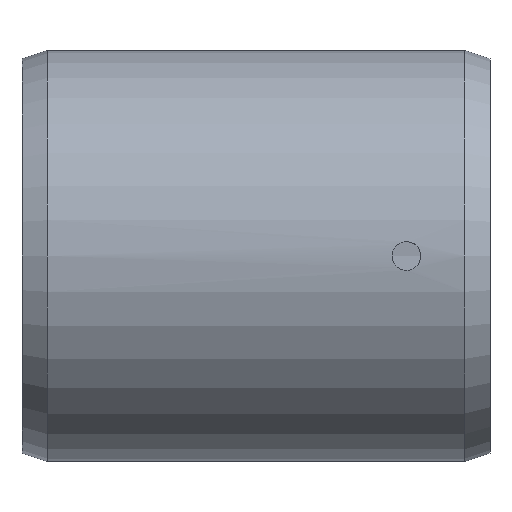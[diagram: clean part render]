
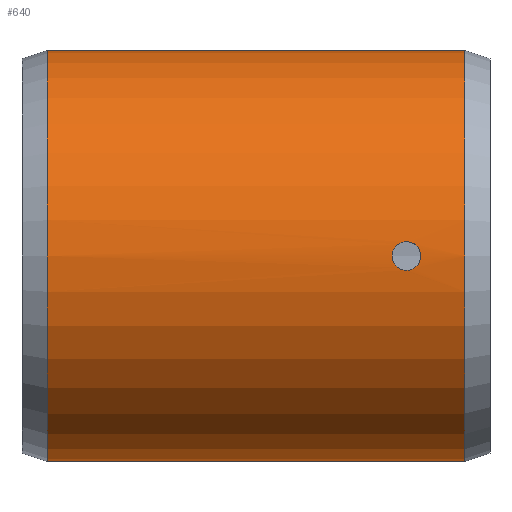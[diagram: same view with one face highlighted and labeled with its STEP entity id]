
A CAD part, front view. The second image highlights one B-rep face of the part: STEP entity #640.
In plain terms, the highlighted cylindrical face has radius 24.606 mm (diameter 49.213 mm), a partial arc.
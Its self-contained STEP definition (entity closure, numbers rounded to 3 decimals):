
#12 = CARTESIAN_POINT ( 'NONE',  ( 17.443, -24.552, -1.639 ) ) ;
#14 = AXIS2_PLACEMENT_3D ( 'NONE', #975, #816, #391 ) ;
#15 = CARTESIAN_POINT ( 'NONE',  ( 16.447, -24.595, 0.765 ) ) ;
#18 = CYLINDRICAL_SURFACE ( 'NONE', #14, 24.606 ) ;
#51 = CARTESIAN_POINT ( 'NONE',  ( 19.063, -24.568, -1.38 ) ) ;
#52 = CARTESIAN_POINT ( 'NONE',  ( 19.3, -24.58, 1.143 ) ) ;
#58 = CARTESIAN_POINT ( 'NONE',  ( 19.716, -24.605, -0.225 ) ) ;
#59 = VERTEX_POINT ( 'NONE', #190 ) ;
#86 = CARTESIAN_POINT ( 'NONE',  ( 17.135, -24.561, -1.499 ) ) ;
#95 = CARTESIAN_POINT ( 'NONE',  ( 16.626, -24.584, 1.053 ) ) ;
#106 = CARTESIAN_POINT ( 'NONE',  ( 28., 0., 24.606 ) ) ;
#116 = VERTEX_POINT ( 'NONE', #146 ) ;
#129 = CARTESIAN_POINT ( 'NONE',  ( 18.228, -24.546, -1.727 ) ) ;
#133 = CARTESIAN_POINT ( 'NONE',  ( 19.716, -24.605, 0.228 ) ) ;
#135 = CARTESIAN_POINT ( 'NONE',  ( 18.453, -24.549, 1.682 ) ) ;
#144 = CARTESIAN_POINT ( 'NONE',  ( 19.639, -24.6, -0.555 ) ) ;
#146 = CARTESIAN_POINT ( 'NONE',  ( 18., -24.546, -1.727 ) ) ;
#148 = CARTESIAN_POINT ( 'NONE',  ( 25., 0., 24.606 ) ) ;
#175 = CARTESIAN_POINT ( 'NONE',  ( 16.858, -24.572, -1.301 ) ) ;
#178 = CARTESIAN_POINT ( 'NONE',  ( 16.859, -24.572, 1.302 ) ) ;
#190 = CARTESIAN_POINT ( 'NONE',  ( 18., -24.546, 1.727 ) ) ;
#192 = CARTESIAN_POINT ( 'NONE',  ( 25., 0., 0. ) ) ;
#196 = CARTESIAN_POINT ( 'NONE',  ( 25., 0., -24.606 ) ) ;
#199 = ORIENTED_EDGE ( 'NONE', *, *, #545, .T. ) ;
#218 = CARTESIAN_POINT ( 'NONE',  ( 18.455, -24.549, -1.681 ) ) ;
#251 = CARTESIAN_POINT ( 'NONE',  ( 18.225, -24.546, 1.727 ) ) ;
#259 = CARTESIAN_POINT ( 'NONE',  ( 16.491, -24.592, -0.869 ) ) ;
#264 = CARTESIAN_POINT ( 'NONE',  ( 17.133, -24.561, 1.498 ) ) ;
#273 = DIRECTION ( 'NONE',  ( 0., 0., -1. ) ) ;
#301 = CARTESIAN_POINT ( 'NONE',  ( 18., -24.546, -1.727 ) ) ;
#321 = CARTESIAN_POINT ( 'NONE',  ( -25., 0., 0. ) ) ;
#326 = VECTOR ( 'NONE', #668, 1000. ) ;
#336 = CARTESIAN_POINT ( 'NONE',  ( 18., -24.546, -1.727 ) ) ;
#339 = ORIENTED_EDGE ( 'NONE', *, *, #982, .T. ) ;
#342 = CARTESIAN_POINT ( 'NONE',  ( 16.273, -24.606, -0.226 ) ) ;
#346 = CARTESIAN_POINT ( 'NONE',  ( 17.444, -24.552, 1.639 ) ) ;
#379 = CARTESIAN_POINT ( 'NONE',  ( 19.672, -24.602, 0.448 ) ) ;
#388 = AXIS2_PLACEMENT_3D ( 'NONE', #192, #711, #273 ) ;
#391 = DIRECTION ( 'NONE',  ( 0., 0., 1. ) ) ;
#411 = CARTESIAN_POINT ( 'NONE',  ( 17.886, -24.546, -1.727 ) ) ;
#416 = CARTESIAN_POINT ( 'NONE',  ( 16.284, -24.605, 0.227 ) ) ;
#418 = CARTESIAN_POINT ( 'NONE',  ( 17.773, -24.546, 1.716 ) ) ;
#431 = VERTEX_POINT ( 'NONE', #575 ) ;
#443 = FACE_BOUND ( 'NONE', #928, .T. ) ;
#450 = FACE_OUTER_BOUND ( 'NONE', #664, .T. ) ;
#452 = LINE ( 'NONE', #514, #326 ) ;
#456 = CARTESIAN_POINT ( 'NONE',  ( 19.5, -24.591, -0.864 ) ) ;
#458 = CARTESIAN_POINT ( 'NONE',  ( 19.552, -24.595, 0.767 ) ) ;
#463 = CARTESIAN_POINT ( 'NONE',  ( 19.553, -24.595, -0.765 ) ) ;
#488 = CARTESIAN_POINT ( 'NONE',  ( 17.553, -24.549, -1.672 ) ) ;
#491 = B_SPLINE_CURVE_WITH_KNOTS ( 'NONE', 3,
 ( #564, #251, #135, #665, #958, #52, #529, #884, #458, #876, #379, #133, #966, #536, #58, #607, #144, #463, #456, #603, #732, #51, #879, #218, #129, #301 ),
 .UNSPECIFIED., .F., .F.,
 ( 4, 2, 2, 2, 2, 2, 2, 2, 2, 2, 2, 2, 4 ),
 ( 0.005, 0.006, 0.007, 0.007, 0.007, 0.008, 0.008, 0.008, 0.009, 0.009, 0.009, 0.01, 0.011 ),
 .UNSPECIFIED. ) ;
#494 = CARTESIAN_POINT ( 'NONE',  ( 16.361, -24.6, 0.556 ) ) ;
#498 = CARTESIAN_POINT ( 'NONE',  ( 18., -24.546, 1.727 ) ) ;
#514 = CARTESIAN_POINT ( 'NONE',  ( 28., 0., -24.606 ) ) ;
#524 = VERTEX_POINT ( 'NONE', #651 ) ;
#529 = CARTESIAN_POINT ( 'NONE',  ( 19.373, -24.584, 1.054 ) ) ;
#536 = CARTESIAN_POINT ( 'NONE',  ( 19.727, -24.606, -0.113 ) ) ;
#545 = EDGE_CURVE ( 'NONE', #59, #116, #491, .T. ) ;
#548 = EDGE_CURVE ( 'NONE', #853, #431, #452, .T. ) ;
#559 = CARTESIAN_POINT ( 'NONE',  ( 17.234, -24.557, -1.552 ) ) ;
#562 = CARTESIAN_POINT ( 'NONE',  ( 16.501, -24.591, 0.866 ) ) ;
#564 = CARTESIAN_POINT ( 'NONE',  ( 18., -24.546, 1.727 ) ) ;
#575 = CARTESIAN_POINT ( 'NONE',  ( -25., 0., -24.606 ) ) ;
#603 = CARTESIAN_POINT ( 'NONE',  ( 19.375, -24.584, -1.052 ) ) ;
#607 = CARTESIAN_POINT ( 'NONE',  ( 19.672, -24.602, -0.446 ) ) ;
#624 = VERTEX_POINT ( 'NONE', #148 ) ;
#629 = CARTESIAN_POINT ( 'NONE',  ( 16.947, -24.568, -1.374 ) ) ;
#632 = CARTESIAN_POINT ( 'NONE',  ( 16.698, -24.58, 1.14 ) ) ;
#640 = ADVANCED_FACE ( 'NONE', ( #450, #443 ), #18, .T. ) ;
#642 = DIRECTION ( 'NONE',  ( -1., 0., 0. ) ) ;
#651 = CARTESIAN_POINT ( 'NONE',  ( -25., 0., 24.606 ) ) ;
#664 = EDGE_LOOP ( 'NONE', ( #959, #687, #823, #339 ) ) ;
#665 = CARTESIAN_POINT ( 'NONE',  ( 18.868, -24.56, 1.51 ) ) ;
#668 = DIRECTION ( 'NONE',  ( -1., 0., 0. ) ) ;
#675 = CIRCLE ( 'NONE', #941, 24.606 ) ;
#687 = ORIENTED_EDGE ( 'NONE', *, *, #805, .T. ) ;
#698 = CARTESIAN_POINT ( 'NONE',  ( 16.619, -24.584, -1.062 ) ) ;
#702 = CARTESIAN_POINT ( 'NONE',  ( 16.946, -24.568, 1.373 ) ) ;
#711 = DIRECTION ( 'NONE',  ( -1., 0., 0. ) ) ;
#732 = CARTESIAN_POINT ( 'NONE',  ( 19.302, -24.58, -1.141 ) ) ;
#741 = EDGE_CURVE ( 'NONE', #116, #59, #832, .T. ) ;
#762 = CARTESIAN_POINT ( 'NONE',  ( 16.318, -24.603, -0.453 ) ) ;
#767 = CARTESIAN_POINT ( 'NONE',  ( 17.234, -24.557, 1.552 ) ) ;
#805 = EDGE_CURVE ( 'NONE', #853, #624, #936, .T. ) ;
#814 = DIRECTION ( 'NONE',  ( 0., 0., -1. ) ) ;
#816 = DIRECTION ( 'NONE',  ( -1., 0., 0. ) ) ;
#819 = EDGE_CURVE ( 'NONE', #624, #524, #920, .T. ) ;
#823 = ORIENTED_EDGE ( 'NONE', *, *, #819, .T. ) ;
#829 = DIRECTION ( 'NONE',  ( 1., 0., 0. ) ) ;
#832 = B_SPLINE_CURVE_WITH_KNOTS ( 'NONE', 3,
 ( #336, #411, #912, #488, #12, #559, #86, #629, #175, #698, #259, #762, #342, #838, #416, #915, #494, #15, #562, #95, #632, #178, #702, #264, #767, #346, #845, #418, #918, #498 ),
 .UNSPECIFIED., .F., .F.,
 ( 4, 2, 2, 2, 2, 2, 2, 2, 2, 2, 2, 2, 2, 2, 4 ),
 ( 0., 0., 0.001, 0.001, 0.001, 0.002, 0.003, 0.003, 0.003, 0.004, 0.004, 0.004, 0.005, 0.005, 0.005 ),
 .UNSPECIFIED. ) ;
#835 = VECTOR ( 'NONE', #642, 1000. ) ;
#838 = CARTESIAN_POINT ( 'NONE',  ( 16.273, -24.606, 0.112 ) ) ;
#845 = CARTESIAN_POINT ( 'NONE',  ( 17.551, -24.549, 1.672 ) ) ;
#853 = VERTEX_POINT ( 'NONE', #196 ) ;
#867 = ORIENTED_EDGE ( 'NONE', *, *, #741, .T. ) ;
#876 = CARTESIAN_POINT ( 'NONE',  ( 19.638, -24.6, 0.558 ) ) ;
#879 = CARTESIAN_POINT ( 'NONE',  ( 18.87, -24.56, -1.509 ) ) ;
#884 = CARTESIAN_POINT ( 'NONE',  ( 19.499, -24.591, 0.866 ) ) ;
#912 = CARTESIAN_POINT ( 'NONE',  ( 17.774, -24.546, -1.716 ) ) ;
#915 = CARTESIAN_POINT ( 'NONE',  ( 16.328, -24.602, 0.448 ) ) ;
#918 = CARTESIAN_POINT ( 'NONE',  ( 17.887, -24.546, 1.727 ) ) ;
#920 = LINE ( 'NONE', #106, #835 ) ;
#928 = EDGE_LOOP ( 'NONE', ( #867, #199 ) ) ;
#936 = CIRCLE ( 'NONE', #388, 24.606 ) ;
#941 = AXIS2_PLACEMENT_3D ( 'NONE', #321, #829, #814 ) ;
#958 = CARTESIAN_POINT ( 'NONE',  ( 19.061, -24.568, 1.381 ) ) ;
#959 = ORIENTED_EDGE ( 'NONE', *, *, #548, .F. ) ;
#966 = CARTESIAN_POINT ( 'NONE',  ( 19.727, -24.606, 0.115 ) ) ;
#975 = CARTESIAN_POINT ( 'NONE',  ( 28., 0., 0. ) ) ;
#982 = EDGE_CURVE ( 'NONE', #524, #431, #675, .T. ) ;
